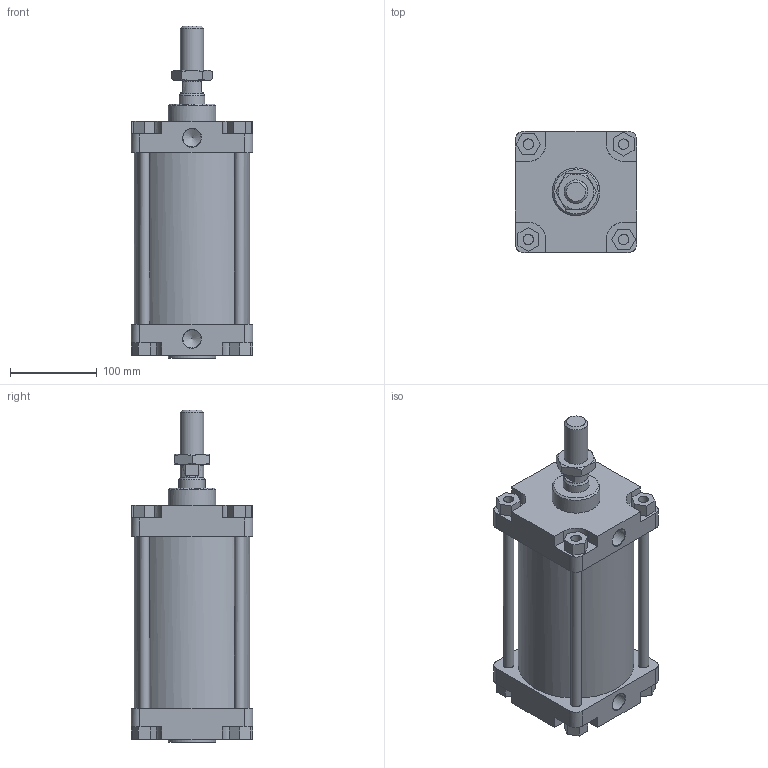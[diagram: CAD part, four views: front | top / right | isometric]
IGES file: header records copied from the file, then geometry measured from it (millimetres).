
Global section: file name: 1303_125_0125_01A; native system: Autodesk Inventor 2014; preprocessor: unknown; author: A. Manieri; date: 20161124.141509; units: millimetre
Bounding box: 140 x 140 x 383 mm (x, y, z)
Volume: 2801048.2 mm3; surface area: 422149.4 mm2
Topology: 9 solids, 9 shells, 175 faces, 440 edges, 295 vertices
Faces by surface type: bspline 175
